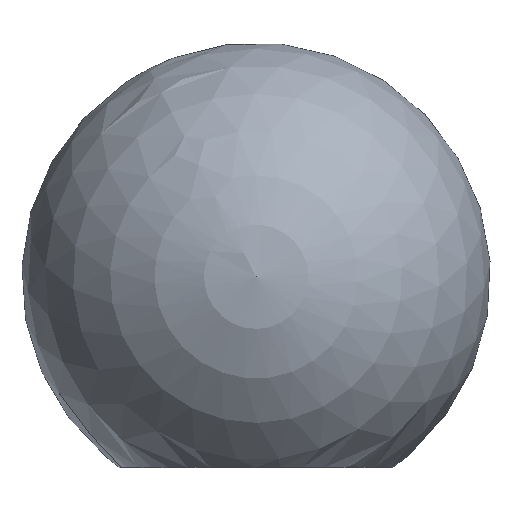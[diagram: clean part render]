
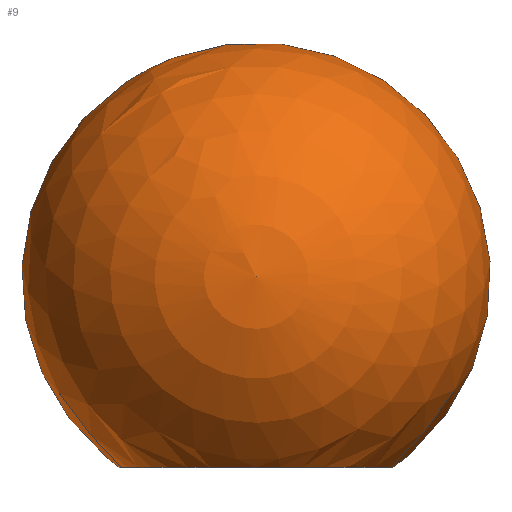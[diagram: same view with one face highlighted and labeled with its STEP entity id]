
A CAD part, top view. The second image highlights one B-rep face of the part: STEP entity #9.
In plain terms, the highlighted spherical face has radius 16 mm.
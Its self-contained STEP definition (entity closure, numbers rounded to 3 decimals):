
#9 = ADVANCED_FACE ( 'NONE', ( #74 ), #32, .T. ) ;
#12 = EDGE_LOOP ( 'NONE', ( #33 ) ) ;
#23 = CARTESIAN_POINT ( 'NONE',  ( 0., 0., -9.327 ) ) ;
#31 = CIRCLE ( 'NONE', #150, 9.327 ) ;
#32 = SPHERICAL_SURFACE ( 'NONE', #178, 16. ) ;
#33 = ORIENTED_EDGE ( 'NONE', *, *, #60, .F. ) ;
#47 = DIRECTION ( 'NONE',  ( 0., 0., 1. ) ) ;
#60 = EDGE_CURVE ( 'NONE', #174, #174, #31, .T. ) ;
#74 = FACE_OUTER_BOUND ( 'NONE', #12, .T. ) ;
#77 = CARTESIAN_POINT ( 'NONE',  ( 0., 13., 0. ) ) ;
#78 = DIRECTION ( 'NONE',  ( 1., 0., 0. ) ) ;
#122 = CARTESIAN_POINT ( 'NONE',  ( 0., 0., 0. ) ) ;
#123 = DIRECTION ( 'NONE',  ( 0., -1., 0. ) ) ;
#124 = DIRECTION ( 'NONE',  ( 0., 0., -1. ) ) ;
#150 = AXIS2_PLACEMENT_3D ( 'NONE', #122, #123, #124 ) ;
#174 = VERTEX_POINT ( 'NONE', #23 ) ;
#178 = AXIS2_PLACEMENT_3D ( 'NONE', #77, #47, #78 ) ;
